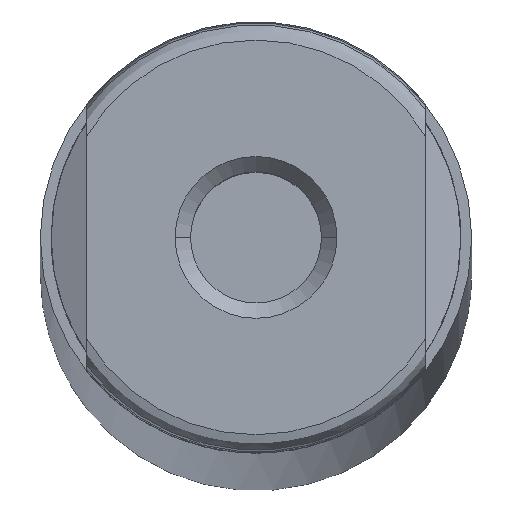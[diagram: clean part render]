
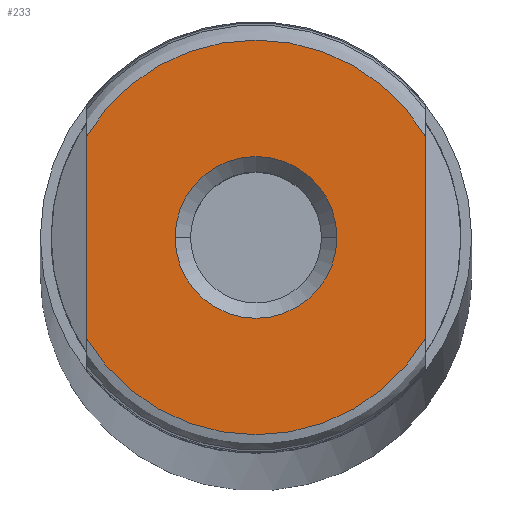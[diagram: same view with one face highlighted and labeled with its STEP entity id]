
A CAD part, top view. The second image highlights one B-rep face of the part: STEP entity #233.
In plain terms, the highlighted planar face has unit normal (0, 0, 1).
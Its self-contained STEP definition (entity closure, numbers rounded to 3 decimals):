
#6 = EDGE_CURVE ( 'NONE', #32, #1068, #321, .T. ) ;
#17 = VERTEX_POINT ( 'NONE', #448 ) ;
#32 = VERTEX_POINT ( 'NONE', #569 ) ;
#61 = VERTEX_POINT ( 'NONE', #802 ) ;
#83 = ORIENTED_EDGE ( 'NONE', *, *, #1356, .T. ) ;
#121 = ORIENTED_EDGE ( 'NONE', *, *, #1357, .F. ) ;
#179 = ORIENTED_EDGE ( 'NONE', *, *, #1309, .F. ) ;
#224 = EDGE_CURVE ( 'NONE', #61, #1341, #969, .T. ) ;
#233 = ADVANCED_FACE ( 'NONE', ( #307, #308 ), #309, .F. ) ;
#264 = CIRCLE ( 'NONE', #265, 5.25 ) ;
#265 = AXIS2_PLACEMENT_3D ( 'NONE', #266, #267, #268 ) ;
#266 = CARTESIAN_POINT ( 'NONE',  ( 0., 0., 0. ) ) ;
#267 = DIRECTION ( 'NONE',  ( 0., 0., 1. ) ) ;
#268 = DIRECTION ( 'NONE',  ( 1., 0., 0. ) ) ;
#307 = FACE_BOUND ( 'NONE', #1013, .T. ) ;
#308 = FACE_OUTER_BOUND ( 'NONE', #1257, .T. ) ;
#309 = PLANE ( 'NONE',  #310 ) ;
#310 = AXIS2_PLACEMENT_3D ( 'NONE', #311, #312, #313 ) ;
#311 = CARTESIAN_POINT ( 'NONE',  ( 0., 0., 0. ) ) ;
#312 = DIRECTION ( 'NONE',  ( 0., 0., -1. ) ) ;
#313 = DIRECTION ( 'NONE',  ( -1., 0., 0. ) ) ;
#317 = EDGE_CURVE ( 'NONE', #32, #1341, #461, .T. ) ;
#321 = CIRCLE ( 'NONE', #322, 12.808 ) ;
#322 = AXIS2_PLACEMENT_3D ( 'NONE', #323, #324, #325 ) ;
#323 = CARTESIAN_POINT ( 'NONE',  ( 0., 0., 0. ) ) ;
#324 = DIRECTION ( 'NONE',  ( 0., 0., 1. ) ) ;
#325 = DIRECTION ( 'NONE',  ( 1., 0., 0. ) ) ;
#448 = CARTESIAN_POINT ( 'NONE',  ( -5.25, 0., 0. ) ) ;
#461 = LINE ( 'NONE', #462, #463 ) ;
#462 = CARTESIAN_POINT ( 'NONE',  ( -11., -14., 0. ) ) ;
#463 = VECTOR ( 'NONE', #464, 1000. ) ;
#464 = DIRECTION ( 'NONE',  ( 0., 1., 0. ) ) ;
#569 = CARTESIAN_POINT ( 'NONE',  ( -11., -6.56, 0. ) ) ;
#619 = CIRCLE ( 'NONE', #620, 5.25 ) ;
#620 = AXIS2_PLACEMENT_3D ( 'NONE', #621, #622, #623 ) ;
#621 = CARTESIAN_POINT ( 'NONE',  ( 0., 0., 0. ) ) ;
#622 = DIRECTION ( 'NONE',  ( 0., 0., 1. ) ) ;
#623 = DIRECTION ( 'NONE',  ( 1., 0., 0. ) ) ;
#672 = ORIENTED_EDGE ( 'NONE', *, *, #317, .F. ) ;
#802 = CARTESIAN_POINT ( 'NONE',  ( 11., 6.56, 0. ) ) ;
#882 = CARTESIAN_POINT ( 'NONE',  ( -11., 6.56, 0. ) ) ;
#917 = CARTESIAN_POINT ( 'NONE',  ( 11., -6.56, 0. ) ) ;
#969 = CIRCLE ( 'NONE', #970, 12.808 ) ;
#970 = AXIS2_PLACEMENT_3D ( 'NONE', #971, #972, #973 ) ;
#971 = CARTESIAN_POINT ( 'NONE',  ( 0., 0., 0. ) ) ;
#972 = DIRECTION ( 'NONE',  ( 0., 0., 1. ) ) ;
#973 = DIRECTION ( 'NONE',  ( 1., 0., 0. ) ) ;
#979 = LINE ( 'NONE', #980, #981 ) ;
#980 = CARTESIAN_POINT ( 'NONE',  ( 11., -14., 0. ) ) ;
#981 = VECTOR ( 'NONE', #982, 1000. ) ;
#982 = DIRECTION ( 'NONE',  ( 0., 1., 0. ) ) ;
#1012 = CARTESIAN_POINT ( 'NONE',  ( 5.25, 0., 0. ) ) ;
#1013 = EDGE_LOOP ( 'NONE', ( #121, #179 ) ) ;
#1068 = VERTEX_POINT ( 'NONE', #917 ) ;
#1213 = VERTEX_POINT ( 'NONE', #1012 ) ;
#1257 = EDGE_LOOP ( 'NONE', ( #1313, #83, #1311, #672 ) ) ;
#1309 = EDGE_CURVE ( 'NONE', #17, #1213, #619, .T. ) ;
#1311 = ORIENTED_EDGE ( 'NONE', *, *, #224, .T. ) ;
#1313 = ORIENTED_EDGE ( 'NONE', *, *, #6, .T. ) ;
#1341 = VERTEX_POINT ( 'NONE', #882 ) ;
#1356 = EDGE_CURVE ( 'NONE', #1068, #61, #979, .T. ) ;
#1357 = EDGE_CURVE ( 'NONE', #1213, #17, #264, .T. ) ;
